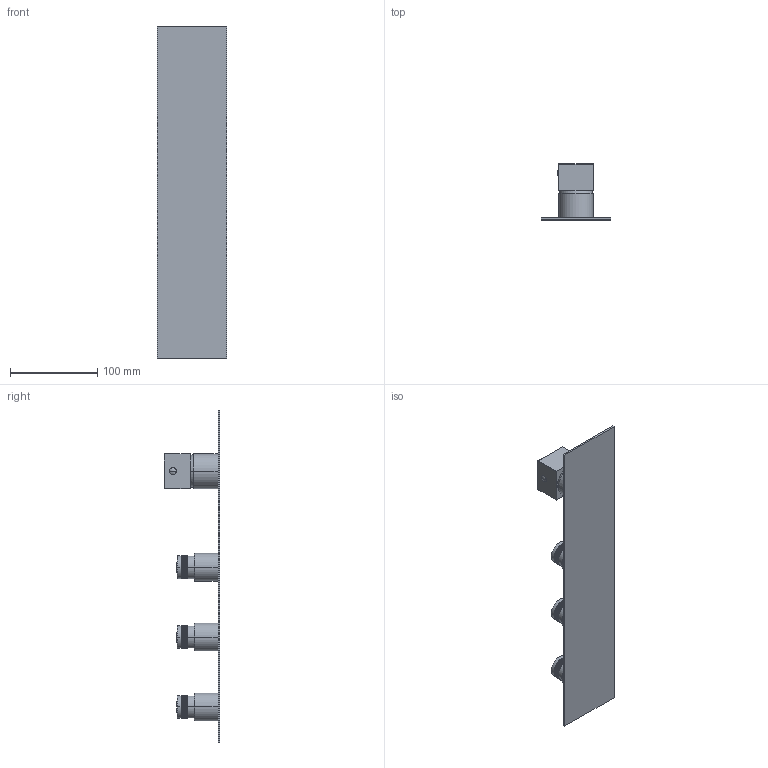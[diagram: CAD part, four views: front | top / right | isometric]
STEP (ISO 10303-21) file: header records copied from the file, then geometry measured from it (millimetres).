
FILE_DESCRIPTION((''),'2;1');
FILE_NAME('35000V3_SW0001','2026-03-05T11:47:56',('carloff'),(''),'CREO PARAMETRIC BY PTC INC, 2022014','CREO PARAMETRIC BY PTC INC, 2022014','');
FILE_SCHEMA(('CONFIG_CONTROL_DESIGN'));
Products named in the file (1): 35000V3_SW0001
Bounding box: 80 x 63.7 x 380 mm (x, y, z)
Volume: 244064.8 mm3; surface area: 85931.6 mm2
Topology: 1 solids, 1 shells, 5104 faces, 12393 edges, 8130 vertices
Faces by surface type: bspline 3842, cylinder 1042, plane 196, torus 12, sphere 12
Entity records: 211537 total; most frequent: CARTESIAN_POINT 118208, ORIENTED_EDGE 24770, EDGE_CURVE 12385, VERTEX_POINT 8130, B_SPLINE_CURVE_WITH_KNOTS 7788, DIRECTION 7646, EDGE_LOOP 5951, FACE_OUTER_BOUND 5104
